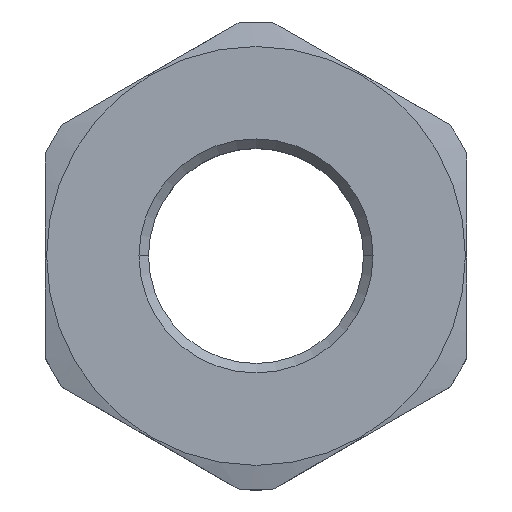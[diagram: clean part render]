
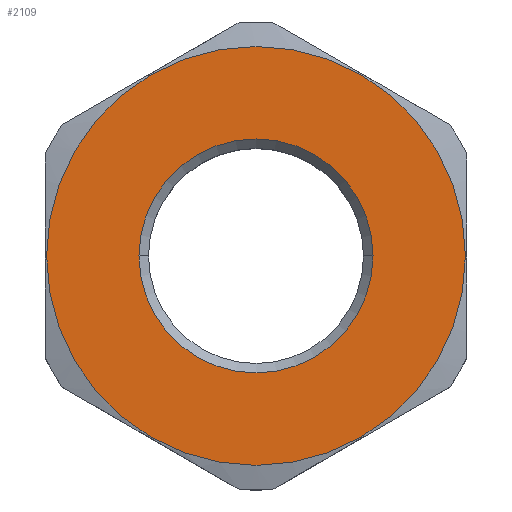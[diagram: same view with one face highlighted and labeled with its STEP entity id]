
A CAD part, top view. The second image highlights one B-rep face of the part: STEP entity #2109.
In plain terms, the highlighted planar face has unit normal (0, 0, 1).
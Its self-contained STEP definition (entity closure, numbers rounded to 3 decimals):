
#853 = CARTESIAN_POINT ( 'NONE',  ( 10., 0., 0. ) ) ;
#911 = DIRECTION ( 'NONE',  ( 1., 0., 0. ) ) ;
#1057 = DIRECTION ( 'NONE',  ( 0., 0., 1. ) ) ;
#1058 = CARTESIAN_POINT ( 'NONE',  ( 0., 0., 0. ) ) ;
#1059 = AXIS2_PLACEMENT_3D ( 'NONE', #1058, #1057, #911 ) ;
#1060 = CIRCLE ( 'NONE', #1059, 17.9 ) ;
#1103 = CARTESIAN_POINT ( 'NONE',  ( -17.9, 0., 0. ) ) ;
#1115 = DIRECTION ( 'NONE',  ( 1., 0., 0. ) ) ;
#1120 = DIRECTION ( 'NONE',  ( 0., 0., 1. ) ) ;
#1121 = CARTESIAN_POINT ( 'NONE',  ( 0., 0., 0. ) ) ;
#1122 = AXIS2_PLACEMENT_3D ( 'NONE', #1121, #1120, #1115 ) ;
#1140 = CIRCLE ( 'NONE', #1122, 17.9 ) ;
#1213 = CARTESIAN_POINT ( 'NONE',  ( 17.9, 0., 0. ) ) ;
#1289 = CIRCLE ( 'NONE', #1321, 10. ) ;
#1320 = DIRECTION ( 'NONE',  ( 1., 0., 0. ) ) ;
#1321 = AXIS2_PLACEMENT_3D ( 'NONE', #1351, #1350, #1320 ) ;
#1326 = DIRECTION ( 'NONE',  ( -1., 0., 0. ) ) ;
#1327 = DIRECTION ( 'NONE',  ( 0., 0., -1. ) ) ;
#1332 = CARTESIAN_POINT ( 'NONE',  ( 0., 0., 0. ) ) ;
#1333 = AXIS2_PLACEMENT_3D ( 'NONE', #1332, #1327, #1326 ) ;
#1335 = PLANE ( 'NONE',  #1333 ) ;
#1336 = FACE_OUTER_BOUND ( 'NONE', #2077, .T. ) ;
#1337 = FACE_BOUND ( 'NONE', #2030, .T. ) ;
#1350 = DIRECTION ( 'NONE',  ( 0., 0., 1. ) ) ;
#1351 = CARTESIAN_POINT ( 'NONE',  ( 0., 0., 0. ) ) ;
#1420 = DIRECTION ( 'NONE',  ( 1., 0., 0. ) ) ;
#1421 = DIRECTION ( 'NONE',  ( 0., 0., 1. ) ) ;
#1422 = CARTESIAN_POINT ( 'NONE',  ( 0., 0., 0. ) ) ;
#1423 = AXIS2_PLACEMENT_3D ( 'NONE', #1422, #1421, #1420 ) ;
#1424 = CIRCLE ( 'NONE', #1423, 10. ) ;
#1425 = CARTESIAN_POINT ( 'NONE',  ( -10., 0., 0. ) ) ;
#1776 = VERTEX_POINT ( 'NONE', #1425 ) ;
#1778 = EDGE_CURVE ( 'NONE', #1776, #1815, #1424, .T. ) ;
#1815 = VERTEX_POINT ( 'NONE', #853 ) ;
#1869 = EDGE_CURVE ( 'NONE', #2004, #1977, #1060, .T. ) ;
#1977 = VERTEX_POINT ( 'NONE', #1213 ) ;
#2002 = EDGE_CURVE ( 'NONE', #1977, #2004, #1140, .T. ) ;
#2004 = VERTEX_POINT ( 'NONE', #1103 ) ;
#2030 = EDGE_LOOP ( 'NONE', ( #2124, #2151 ) ) ;
#2077 = EDGE_LOOP ( 'NONE', ( #2125, #2149 ) ) ;
#2078 = EDGE_CURVE ( 'NONE', #1815, #1776, #1289, .T. ) ;
#2109 = ADVANCED_FACE ( 'NONE', ( #1337, #1336 ), #1335, .F. ) ;
#2124 = ORIENTED_EDGE ( 'NONE', *, *, #2078, .F. ) ;
#2125 = ORIENTED_EDGE ( 'NONE', *, *, #1869, .T. ) ;
#2149 = ORIENTED_EDGE ( 'NONE', *, *, #2002, .T. ) ;
#2151 = ORIENTED_EDGE ( 'NONE', *, *, #1778, .F. ) ;
